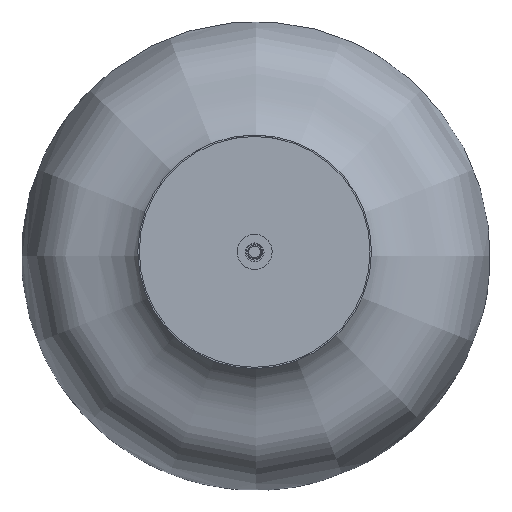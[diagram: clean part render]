
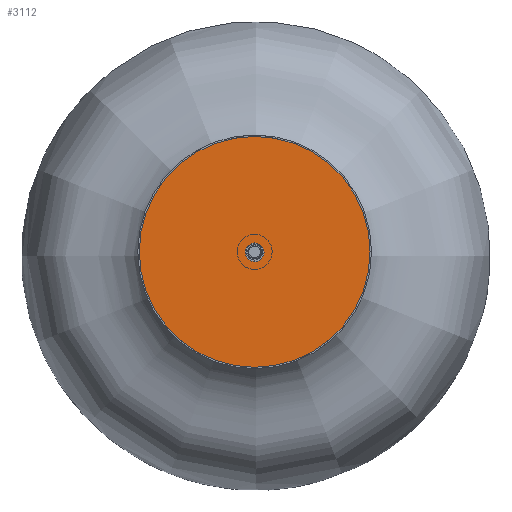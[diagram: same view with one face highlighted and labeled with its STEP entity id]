
A CAD part, top view. The second image highlights one B-rep face of the part: STEP entity #3112.
In plain terms, the highlighted planar face has unit normal (0, 0, 1).
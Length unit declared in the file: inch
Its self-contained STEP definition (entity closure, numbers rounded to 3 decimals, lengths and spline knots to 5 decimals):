
#45=PLANE('',#3365);
#79=FACE_BOUND('',#1083,.T.);
#878=FACE_OUTER_BOUND('',#1082,.T.);
#1082=EDGE_LOOP('',(#2448));
#1083=EDGE_LOOP('',(#2449));
#1247=CIRCLE('',#3360,0.2);
#1249=CIRCLE('',#3363,2.47);
#1409=VERTEX_POINT('',#8853);
#1411=VERTEX_POINT('',#8859);
#1786=EDGE_CURVE('',#1409,#1409,#1247,.T.);
#1789=EDGE_CURVE('',#1411,#1411,#1249,.F.);
#2448=ORIENTED_EDGE('',*,*,#1789,.T.);
#2449=ORIENTED_EDGE('',*,*,#1786,.T.);
#3112=ADVANCED_FACE('',(#878,#79),#45,.T.);
#3360=AXIS2_PLACEMENT_3D('',#8854,#3819,#3820);
#3363=AXIS2_PLACEMENT_3D('',#8860,#3826,#3827);
#3365=AXIS2_PLACEMENT_3D('',#8864,#3831,#3832);
#3819=DIRECTION('center_axis',(0.,0.,-1.));
#3820=DIRECTION('ref_axis',(1.,0.,0.));
#3826=DIRECTION('center_axis',(0.,0.,-1.));
#3827=DIRECTION('ref_axis',(1.,0.,0.));
#3831=DIRECTION('center_axis',(0.,0.,1.));
#3832=DIRECTION('ref_axis',(1.,0.,0.));
#8853=CARTESIAN_POINT('',(-0.19813,-0.00889,47.73));
#8854=CARTESIAN_POINT('Origin',(0.00187,-0.00889,
47.73));
#8859=CARTESIAN_POINT('',(-2.47,0.,47.73));
#8860=CARTESIAN_POINT('Origin',(0.,0.,47.73));
#8864=CARTESIAN_POINT('Origin',(0.,0.,47.73));
